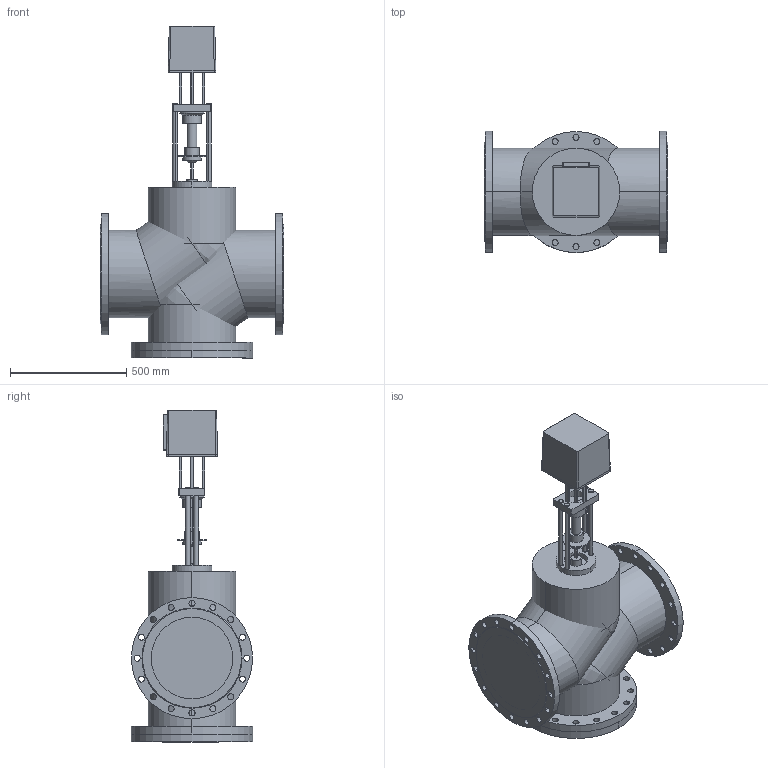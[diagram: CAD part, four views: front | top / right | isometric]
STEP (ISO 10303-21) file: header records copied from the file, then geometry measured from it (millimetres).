
FILE_DESCRIPTION(/* description */ (''),/* implementation_level */ '2;1');
FILE_NAME(/* name */ 'ТРК DN350 PN 1.6 МПа LEA 26000',/* time_stamp */ '2026-07-14T23:09:16+03:00',/* author */ (''),/* organization */ (''),/* preprocessor_version */ 'ST-DEVELOPER v20',/* originating_system */ '',/* authorisation */ '');
FILE_SCHEMA (('AP242_MANAGED_MODEL_BASED_3D_ENGINEERING_MIM_LF { 1 0 10303 442 1 1 4 }'));
Length unit declared in the file: millimetre
Products named in the file (14): TopLevelAssembly; Выдавливание; Модификатор; Модификатор_1; Выдавливание_
1; Выдавливание_
2; Вращение; Выдавливание_
3; Выдавливание_
4; 1600; Переход; Объемная геометрия 
присоединена; Полый Выдавливание; Объемная геометрия 
присоединена_1
Assembly tree (13 placements, depth 2):
  TopLevelAssembly
    Выдавливание
    Модификатор
    Модификатор_1
    Выдавливание_
1
    Выдавливание_
2
    Вращение
    Выдавливание_
3
    Выдавливание_
4
    1600
    Переход
    Объемная геометрия 
присоединена
    Полый Выдавливание
    Объемная геометрия 
присоединена_1
Bounding box: 787 x 520 x 1425 mm (x, y, z)
Volume: 218134589.7 mm3; surface area: 5839055.7 mm2
Topology: 21 solids, 21 shells, 289 faces, 692 edges, 448 vertices
Faces by surface type: cylinder 184, plane 89, bspline 12, cone 4
Entity records: 9434 total; most frequent: DIRECTION 1688, CARTESIAN_POINT 1672, ORIENTED_EDGE 1368, AXIS2_PLACEMENT_3D 700, EDGE_CURVE 684, VERTEX_POINT 448, EDGE_LOOP 404, CIRCLE 384
